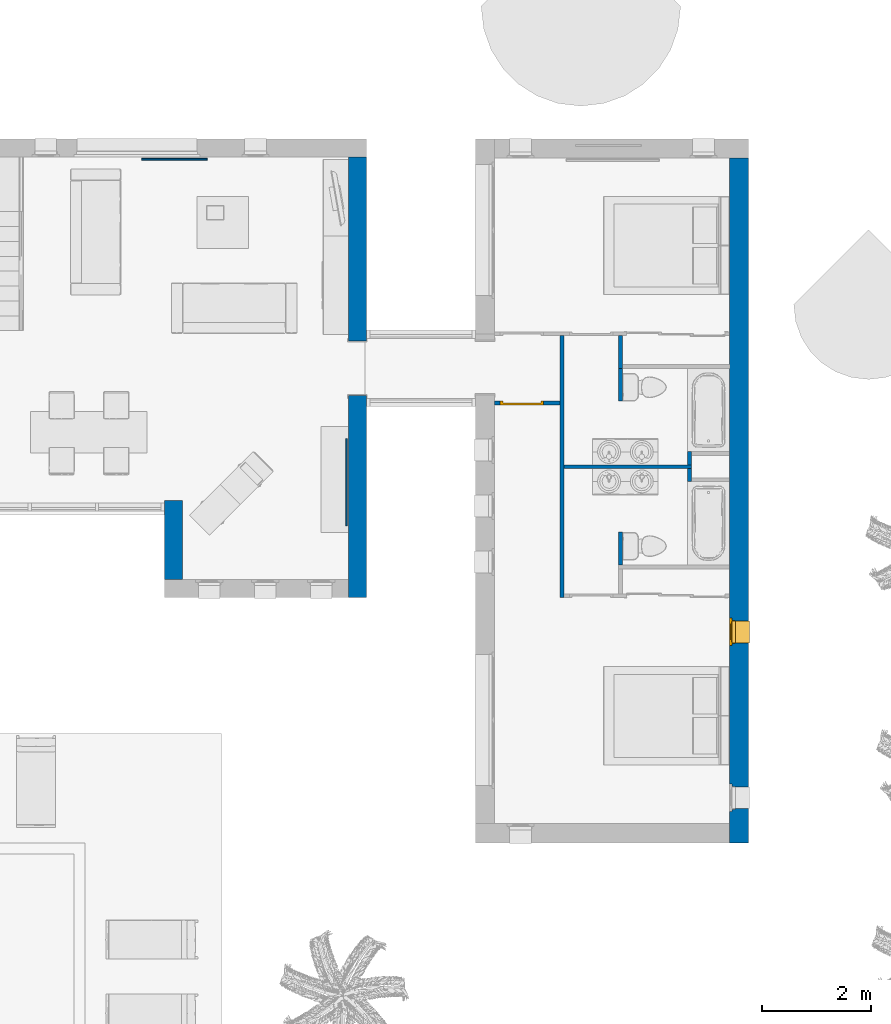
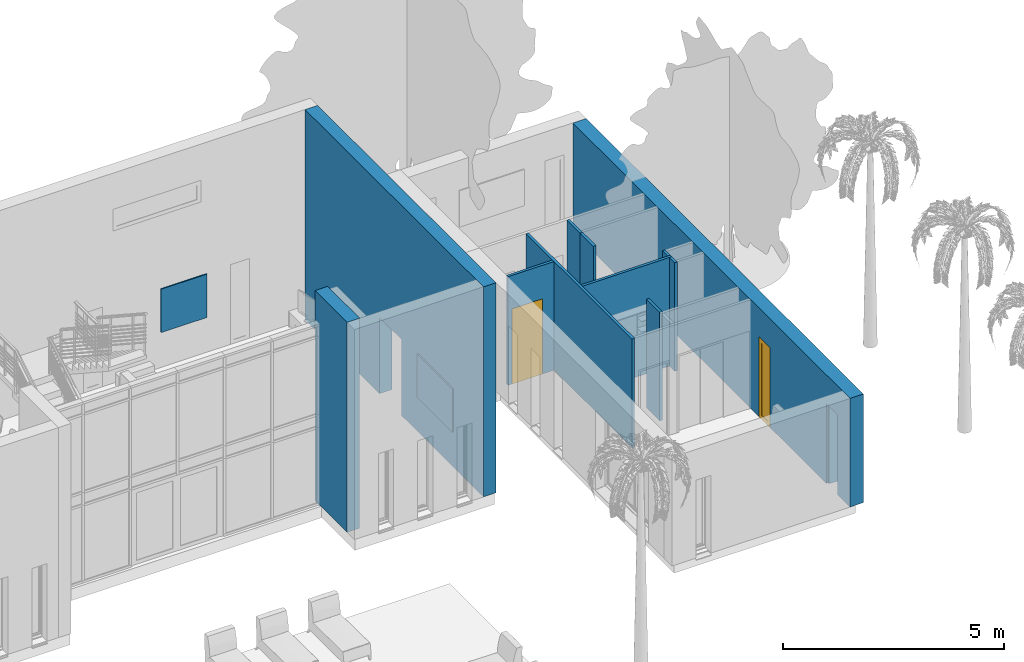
# One storey, part 12 of 40: 13 walls, 1 door, 1 window, 4 openings.
"""IFC2X3 building model written with IfcOpenShell, lengths in metres."""

import ifcopenshell
import ifcopenshell.guid

model = None  # the IFC model being written
_history = None  # IfcOwnerHistory: only IFC2X3 demands one
_inside = {}  # id of a spatial element -> (the spatial element, [elements in it])
_under = {}  # id of a project, library or spatial element -> (it, [spatial elements below it])
_declared = {}  # id of a project -> (the project, [libraries it declares])
_typed = {}  # id of a type object -> (the type object, [elements of that type])
_made_of = {}  # id of a material, layer set ... -> (it, [elements and type objects made of it])


def new_model(schema):
    """Start an empty IFC model of exactly this schema.

    Asked for "IFC4X3", IfcOpenShell would pick the latest addendum, in which some entities
    have other attributes; the version numbers below select the first issue.
    IFC2X3 requires an IfcOwnerHistory on every rooted entity: one is made here for all.
    """
    global model, _history
    if schema == "IFC4X3":
        model = ifcopenshell.file(schema_version=(4, 3, 0, 0))
    else:
        model = ifcopenshell.file(schema=schema)
    _inside.clear()
    _under.clear()
    _declared.clear()
    _typed.clear()
    _made_of.clear()
    _history = None
    if model.schema == "IFC2X3":
        org = make("IfcOrganization", Name="unknown")
        user = make(
            "IfcPersonAndOrganization",
            ThePerson=make("IfcPerson", FamilyName="unknown"),
            TheOrganization=org,
        )
        app = make(
            "IfcApplication",
            ApplicationDeveloper=org,
            Version="unknown",
            ApplicationFullName="unknown",
            ApplicationIdentifier="unknown",
        )
        _history = make(
            "IfcOwnerHistory",
            OwningUser=user,
            OwningApplication=app,
            ChangeAction="ADDED",
            CreationDate=0,
        )
    return model


def make(cls, **values):
    """One entity of the class cls with the attributes given. An attribute that is None is left unset."""
    return model.create_entity(
        cls, **{name: value for name, value in values.items() if value is not None}
    )


def entity(cls, *values):
    """Any entity or typed value of the class cls, its attributes in the order of the schema. None: left unset."""
    e = model.create_entity(cls)
    for i, value in enumerate(values):
        if value is not None:
            e[i] = value
    return e


def rooted(cls, **values):
    """An entity with a GlobalId (a new one), such as an element, a storey or a relation."""
    return make(cls, GlobalId=ifcopenshell.guid.new(), OwnerHistory=_history, **values)


def si_unit(unit_type, name, prefix=None):
    """IfcSIUnit, for example si_unit("LENGTHUNIT", "METRE", prefix="MILLI")."""
    return make("IfcSIUnit", UnitType=unit_type, Prefix=prefix, Name=name)


def converted_unit(unit_type, name, factor, base, dimensions=None, offset=None):
    """IfcConversionBasedUnit, such as the inch: factor (a typed value) times the base unit."""
    return make(
        "IfcConversionBasedUnit"
        if offset is None
        else "IfcConversionBasedUnitWithOffset",
        ConversionOffset=offset,
        Dimensions=None
        if dimensions is None
        else entity("IfcDimensionalExponents", *dimensions),
        UnitType=unit_type,
        Name=name,
        ConversionFactor=make(
            "IfcMeasureWithUnit", ValueComponent=factor, UnitComponent=base
        ),
    )


def derived_unit(unit_type, elements):
    """IfcDerivedUnit: a product of units, each with its exponent."""
    return make(
        "IfcDerivedUnit",
        Elements=[
            make("IfcDerivedUnitElement", Unit=unit, Exponent=power)
            for unit, power in elements
        ],
        UnitType=unit_type,
    )


def assignment(units):
    """IfcUnitAssignment: the units of a project."""
    return None if units is None else make("IfcUnitAssignment", Units=units)


def point(xyz):
    """IfcCartesianPoint."""
    return None if xyz is None else make("IfcCartesianPoint", Coordinates=xyz)


def direction(xyz):
    """IfcDirection."""
    return None if xyz is None else make("IfcDirection", DirectionRatios=xyz)


def frame(location, z_axis=None, x_axis=None):
    """IfcAxis2Placement3D, a coordinate frame: its origin and axes. An axis left out is left unset."""
    return make(
        "IfcAxis2Placement3D",
        Location=point(location),
        Axis=direction(z_axis),
        RefDirection=direction(x_axis),
    )


def frame_2d(location, x_axis=None):
    """IfcAxis2Placement2D, a coordinate frame in the plane: its origin and x axis."""
    return make(
        "IfcAxis2Placement2D", Location=point(location), RefDirection=direction(x_axis)
    )


def origin():
    """The frame at (0, 0, 0) with its axes left unset."""
    return frame((0.0, 0.0, 0.0))


def place(relative_to, where):
    """IfcLocalPlacement: puts the frame where relative to a parent placement (None: the world)."""
    return make(
        "IfcLocalPlacement", PlacementRelTo=relative_to, RelativePlacement=where
    )


def context(
    kind, dimensions, precision=None, world=None, true_north=None, identifier=None
):
    """IfcGeometricRepresentationContext, for example the 3D "Model" context."""
    return make(
        "IfcGeometricRepresentationContext",
        ContextIdentifier=identifier,
        ContextType=kind,
        CoordinateSpaceDimension=dimensions,
        Precision=precision,
        WorldCoordinateSystem=world,
        TrueNorth=true_north,
    )


def subcontext(parent, identifier, kind, view, scale=None):
    """IfcGeometricRepresentationSubContext, for example "Body" below "Model"."""
    return make(
        "IfcGeometricRepresentationSubContext",
        ContextIdentifier=identifier,
        ContextType=kind,
        ParentContext=parent,
        TargetScale=scale,
        TargetView=view,
    )


def project(units=None, contexts=None):
    """IfcProject with its units and contexts."""
    return rooted(
        "IfcProject",
        Name="project",
        RepresentationContexts=contexts,
        UnitsInContext=assignment(units),
    )


def spatial(cls, under=None, at=None, **own):
    """A site, building, storey or space (cls), placed at a placement, below another one or the project."""
    s = rooted(cls, ObjectPlacement=at, **own)
    if under is not None:
        _under.setdefault(under.id(), (under, []))[1].append(s)
    return s


def profile(cls, at=None, kind="AREA", **sizes):
    """A parametric profile (cls). Its sizes go by their IFC names, for example OverallWidth=200.0."""
    return make(cls, ProfileType=kind, Position=at, **sizes)


def rectangle(**sizes):
    """IfcRectangleProfileDef."""
    return profile("IfcRectangleProfileDef", **sizes)


def extrude(swept, where, along, depth):
    """IfcExtrudedAreaSolid: the profile swept, set in the frame where, extruded along a direction by depth."""
    return make(
        "IfcExtrudedAreaSolid",
        SweptArea=swept,
        Position=where,
        ExtrudedDirection=direction(along),
        Depth=depth,
    )


def faces_of(points, faces, orient=None, outer=None):
    """IfcFace entities. A face is a list of loops; a loop is a list of indices into points, from 0.

    orient and outer hold one flag for each loop. By default every Orientation is true, the
    first loop of a face is its IfcFaceOuterBound and the others are IfcFaceBound.
    """
    made = []
    for i, loops in enumerate(faces):
        bounds = []
        for j, loop in enumerate(loops):
            is_outer = j == 0 if outer is None else outer[i][j]
            bounds.append(
                make(
                    "IfcFaceOuterBound" if is_outer else "IfcFaceBound",
                    Bound=make("IfcPolyLoop", Polygon=[points[k] for k in loop]),
                    Orientation=True if orient is None else orient[i][j],
                )
            )
        made.append(make("IfcFace", Bounds=bounds))
    return made


def faceted_brep(points, faces, orient=None, outer=None, voids=None):
    """IfcFacetedBrep: a solid bounded by flat faces; with voids (closed shells), ...WithVoids."""
    shared = [point(p) for p in points]
    hull = make("IfcClosedShell", CfsFaces=faces_of(shared, faces, orient, outer))
    if voids is None:
        return make("IfcFacetedBrep", Outer=hull)
    return make(
        "IfcFacetedBrepWithVoids",
        Outer=hull,
        Voids=[
            make(cls, CfsFaces=faces_of(shared, fs, o, b)) for cls, fs, o, b in voids
        ],
    )


def shape(context_of_items, identifier, shape_type, items):
    """IfcShapeRepresentation: the items that make up one representation, for example the "Body"."""
    return make(
        "IfcShapeRepresentation",
        ContextOfItems=context_of_items,
        RepresentationIdentifier=identifier,
        RepresentationType=shape_type,
        Items=items,
    )


def source(mapping_origin, context_of_items, identifier, shape_type, items):
    """IfcRepresentationMap: a shape defined once, which mapped items show again and again."""
    return make(
        "IfcRepresentationMap",
        MappingOrigin=mapping_origin,
        MappedRepresentation=shape(context_of_items, identifier, shape_type, items),
    )


def transform(
    local_origin,
    x_axis=None,
    y_axis=None,
    z_axis=None,
    scale=None,
    scale2=None,
    scale3=None,
    uniform=True,
):
    """IfcCartesianTransformationOperator3D, or its non-uniform kind. x_axis, y_axis, z_axis: its Axis1, 2, 3."""
    if uniform:
        return make(
            "IfcCartesianTransformationOperator3D",
            Axis1=direction(x_axis),
            Axis2=direction(y_axis),
            LocalOrigin=point(local_origin),
            Scale=scale,
            Axis3=direction(z_axis),
        )
    return make(
        "IfcCartesianTransformationOperator3DnonUniform",
        Axis1=direction(x_axis),
        Axis2=direction(y_axis),
        LocalOrigin=point(local_origin),
        Scale=scale,
        Axis3=direction(z_axis),
        Scale2=scale2,
        Scale3=scale3,
    )


def mapped(mapping_source, mapping_target):
    """IfcMappedItem: shows the shape of a source again, moved by a transform."""
    return make(
        "IfcMappedItem", MappingSource=mapping_source, MappingTarget=mapping_target
    )


def material(Name=None, Category=None):
    """IfcMaterial."""
    return make("IfcMaterial", Name=Name, Category=Category)


def material_list(materials):
    """IfcMaterialList."""
    return make("IfcMaterialList", Materials=materials)


def layer(
    of_material, thickness, ventilated=None, Name=None, Category=None, Priority=None
):
    """IfcMaterialLayer: one layer of a wall or slab, of a material (None: an air gap)."""
    return make(
        "IfcMaterialLayer",
        Material=of_material,
        LayerThickness=thickness,
        IsVentilated=ventilated,
        Name=Name,
        Category=Category,
        Priority=Priority,
    )


def layer_set(layers, Name=None):
    """IfcMaterialLayerSet."""
    return make("IfcMaterialLayerSet", MaterialLayers=layers, LayerSetName=Name)


def layer_usage(for_layer_set, set_direction, sense, offset, extent=None):
    """IfcMaterialLayerSetUsage: how a layer set lies in its element."""
    return make(
        "IfcMaterialLayerSetUsage",
        ForLayerSet=for_layer_set,
        LayerSetDirection=set_direction,
        DirectionSense=sense,
        OffsetFromReferenceLine=offset,
        ReferenceExtent=extent,
    )


def made_of(thing, what):
    """Note that an element or type object is made of a material, layer set ...; save() writes the relation."""
    if what is not None:
        _made_of.setdefault(what.id(), (what, []))[1].append(thing)
    return thing


def type_object(cls, material=None, **own):
    """A type object (cls), such as IfcWallType, which elements share."""
    return made_of(rooted(cls, **own), material)


def type_shapes(of_type, sources):
    """Give a type object the sources (RepresentationMaps) that its elements show as mapped items."""
    of_type.RepresentationMaps = sources


def element(
    cls,
    number,
    at=None,
    inside=None,
    cuts=None,
    type_object=None,
    material=None,
    context=None,
    identifier="Body",
    shape_type=None,
    held_by="IfcProductDefinitionShape",
    body=None,
    shapes=None,
    **own,
):
    """One element of the class cls, such as IfcWall. Its Tag is "e" and its number.

    at: its placement. inside: the storey or other place that contains it. cuts: it is an
    opening in that element (IfcRelVoidsElement). A single representation is given by context,
    identifier, shape_type and body (its items); several are given by shapes. held_by: the class
    of the entity that holds the representations. save() writes the other relations.
    """
    e = rooted(cls, Tag="e%d" % number, ObjectPlacement=at, **own)
    if body is not None:
        shapes = [shape(context, identifier, shape_type, body)]
    if shapes is not None:
        e.Representation = make(held_by, Representations=shapes)
    if inside is not None:
        _inside.setdefault(inside.id(), (inside, []))[1].append(e)
    if cuts is not None:
        rooted(
            "IfcRelVoidsElement", RelatingBuildingElement=cuts, RelatedOpeningElement=e
        )
    if type_object is not None:
        _typed.setdefault(type_object.id(), (type_object, []))[1].append(e)
    return made_of(e, material)


def fill(opening, filler):
    """IfcRelFillsElement: the door or window that sits in an opening."""
    return rooted(
        "IfcRelFillsElement",
        RelatingOpeningElement=opening,
        RelatedBuildingElement=filler,
    )


def aggregate(whole, parts):
    """IfcRelAggregates: a whole, such as a stair, and the parts it consists of."""
    return rooted("IfcRelAggregates", RelatingObject=whole, RelatedObjects=parts)


def save(model, path):
    """Write the relations noted so far, then the file.

    IfcRelAggregates (storeys below a building ...), IfcRelContainedInSpatialStructure (elements
    in a storey), IfcRelDefinesByType, IfcRelAssociatesMaterial and IfcRelDeclares: one each for
    every whole, place, type object, material and project.
    """
    for whole, parts in _under.values():
        aggregate(whole, parts)
    for where, things in _inside.values():
        rooted(
            "IfcRelContainedInSpatialStructure",
            RelatedElements=things,
            RelatingStructure=where,
        )
    for kind, things in _typed.values():
        rooted("IfcRelDefinesByType", RelatedObjects=things, RelatingType=kind)
    for what, things in _made_of.values():
        rooted("IfcRelAssociatesMaterial", RelatedObjects=things, RelatingMaterial=what)
    for by, libraries in _declared.values():
        rooted("IfcRelDeclares", RelatingContext=by, RelatedDefinitions=libraries)
    model.write(path)


model = new_model("IFC2X3")

# Units and contexts
model_context = context("Model", 3, precision=1e-05, world=origin(), true_north=direction((6.12303176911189e-17, 1.0)))
body_context = subcontext(model_context, "Body", "Model", "MODEL_VIEW")
ifc_project = project(units=[si_unit("LENGTHUNIT", "METRE"), si_unit("AREAUNIT", "SQUARE_METRE"), si_unit("VOLUMEUNIT", "CUBIC_METRE"), converted_unit("PLANEANGLEUNIT", "DEGREE", entity("IfcRatioMeasure", 0.0174532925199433), si_unit("PLANEANGLEUNIT", "RADIAN"), dimensions=[0, 0, 0, 0, 0, 0, 0]), si_unit("MASSUNIT", "GRAM", prefix="KILO"), derived_unit("MASSDENSITYUNIT", [(si_unit("MASSUNIT", "GRAM", prefix="KILO"), 1), (si_unit("LENGTHUNIT", "METRE"), -3)]), si_unit("TIMEUNIT", "SECOND"), si_unit("FREQUENCYUNIT", "HERTZ"), si_unit("THERMODYNAMICTEMPERATUREUNIT", "DEGREE_CELSIUS"), derived_unit("THERMALTRANSMITTANCEUNIT", [(si_unit("MASSUNIT", "GRAM", prefix="KILO"), 1), (si_unit("THERMODYNAMICTEMPERATUREUNIT", "KELVIN"), -1), (si_unit("TIMEUNIT", "SECOND"), -3)]), derived_unit("VOLUMETRICFLOWRATEUNIT", [(si_unit("LENGTHUNIT", "METRE"), 3), (si_unit("TIMEUNIT", "SECOND"), -1)]), si_unit("ELECTRICCURRENTUNIT", "AMPERE"), si_unit("ELECTRICVOLTAGEUNIT", "VOLT"), si_unit("POWERUNIT", "WATT"), si_unit("FORCEUNIT", "NEWTON", prefix="KILO"), si_unit("ILLUMINANCEUNIT", "LUX"), si_unit("LUMINOUSFLUXUNIT", "LUMEN"), si_unit("LUMINOUSINTENSITYUNIT", "CANDELA"), derived_unit("USERDEFINED", [(si_unit("MASSUNIT", "GRAM", prefix="KILO"), -1), (si_unit("LENGTHUNIT", "METRE"), -2), (si_unit("TIMEUNIT", "SECOND"), 3), (si_unit("LUMINOUSFLUXUNIT", "LUMEN"), 1)]), derived_unit("LINEARVELOCITYUNIT", [(si_unit("LENGTHUNIT", "METRE"), 1), (si_unit("TIMEUNIT", "SECOND"), -1)]), si_unit("PRESSUREUNIT", "PASCAL"), derived_unit("USERDEFINED", [(si_unit("LENGTHUNIT", "METRE"), -2), (si_unit("MASSUNIT", "GRAM", prefix="KILO"), 1), (si_unit("TIMEUNIT", "SECOND"), -2)])], contexts=[model_context])

# Site, building, storey
site_placement = place(None, origin())
site = spatial("IfcSite", under=ifc_project, at=site_placement, Name="Surface", CompositionType="ELEMENT")
building_placement = place(site_placement, origin())
building = spatial("IfcBuilding", under=site, at=building_placement, CompositionType="ELEMENT")
storey_placement = place(building_placement, origin())
storey = spatial("IfcBuildingStorey", under=building, at=storey_placement, Name="RDC", CompositionType="ELEMENT", Elevation=-1.0941605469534e-13)

# Wall, opening
ifc_material_1 = material(Name="Maçonnerie - Enduit")
ifc_layer_1 = layer(ifc_material_1, 0.02)
ifc_material_2 = material(Name="Blocs béton manufacturés")
ifc_layer_2 = layer(ifc_material_2, 0.2)
ifc_material_3 = material(Name="vide")
ifc_layer_3 = layer(ifc_material_3, 0.01)
ifc_material_4 = material(Name="Maçonnerie - Isolant")
ifc_layer_4 = layer(ifc_material_4, 0.09)
ifc_material_5 = material(Name="Plâtre")
ifc_layer_5 = layer(ifc_material_5, 0.01)
ifc_layer_set_1 = layer_set([ifc_layer_1, ifc_layer_2, ifc_layer_3, ifc_layer_4, ifc_layer_5], Name="Mur de base:M7 Ext. Crépis 2 + BBMC 20 + Isolant 11")
ifc_layer_usage_1 = layer_usage(ifc_layer_set_1, "AXIS2", "NEGATIVE", 0.165)
wall_type_1 = type_object("IfcWallType", Name="Mur de base:M7 Ext. Crépis 2 + BBMC 20 + Isolant 11", PredefinedType="STANDARD", material=ifc_layer_set_1)
wall_1_placement = place(storey_placement, frame((9.63251111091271, 7.54701067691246, 0.0), z_axis=(0.0, 0.0, 1.0), x_axis=(0.0, -1.0, 0.0)))
wall_1 = element("IfcWallStandardCase", 1, at=wall_1_placement, inside=storey, type_object=wall_type_1, material=ifc_layer_usage_1, Name="Mur de base:M7 Ext. Crépis 2 + BBMC 20 + Isolant 11", ObjectType="Mur de base:M7 Ext. Crépis 2 + BBMC 20 + Isolant 11", context=body_context, shape_type="SweptSolid", body=[
    extrude(rectangle(XDim=8.07, YDim=0.330000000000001, at=frame_2d((4.035, -2.22044604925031e-16), x_axis=(-1.0, 0.0))), origin(), (0.0, 0.0, 1.0), 5.80000000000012),
])
opening_1_placement = place(wall_1_placement, frame((4.37, 0.164999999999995, 0.0)))
element("IfcOpeningElement", 2, at=opening_1_placement, cuts=wall_1, Name="Ouverture en rectangle:Ouverture en rectangle:1", ObjectType="Opening", context=body_context, shape_type="SweptSolid", body=[
    extrude(rectangle(XDim=2.09999999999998, YDim=1.0, at=frame_2d((1.04999999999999, 0.5), x_axis=(1.0, 0.0))), frame((0.0, 0.0, 0.0), z_axis=(0.0, -1.0, 0.0), x_axis=(0.0, 0.0, 1.0)), (0.0, 0.0, 1.0), 0.33),
])

# Wall
ifc_layer_usage_2 = layer_usage(ifc_layer_set_1, "AXIS2", "NEGATIVE", 0.165)
wall_2_placement = place(storey_placement, frame((6.2625111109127, -0.192989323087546, 0.0), z_axis=(0.0, 0.0, 1.0), x_axis=(0.0, 1.0, 0.0)))
element("IfcWallStandardCase", 3, at=wall_2_placement, inside=storey, type_object=wall_type_1, material=ifc_layer_usage_2, Name="Mur de base:M7 Ext. Crépis 2 + BBMC 20 + Isolant 11", ObjectType="Mur de base:M7 Ext. Crépis 2 + BBMC 20 + Isolant 11", context=body_context, shape_type="SweptSolid", body=[
    extrude(rectangle(XDim=1.44999999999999, YDim=0.330000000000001, at=frame_2d((0.724999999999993, 0.0), x_axis=(-1.0, 0.0))), origin(), (0.0, 0.0, 1.0), 5.80000000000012),
])

# Wall, openings, window
ifc_material_6 = material(Name="Bardage bois")
ifc_layer_6 = layer(ifc_material_6, 0.01)
ifc_layer_7 = layer(ifc_material_4, 0.12)
ifc_layer_8 = layer(ifc_material_2, 0.2)
ifc_material_7 = material(Name="Par défaut")
ifc_layer_9 = layer(ifc_material_7, 0.01)
ifc_layer_10 = layer(ifc_material_5, 0.01)
ifc_layer_set_2 = layer_set([ifc_layer_6, ifc_layer_7, ifc_layer_8, ifc_layer_9, ifc_layer_10], Name="Mur de base:M8 Ext. Bois 2 + Isolant 12 +  BBMC 20 + vide 1 + ba13")
ifc_layer_usage_3 = layer_usage(ifc_layer_set_2, "AXIS2", "NEGATIVE", 0.175)
wall_type_2 = type_object("IfcWallType", Name="Mur de base:M8 Ext. Bois 2 + Isolant 12 +  BBMC 20 + vide 1 + ba13", PredefinedType="STANDARD", material=ifc_layer_set_2)
wall_3_placement = place(storey_placement, frame((16.6225111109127, 7.52701067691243, 0.0), z_axis=(0.0, 0.0, 1.0), x_axis=(0.0, -1.0, 0.0)))
wall_3 = element("IfcWallStandardCase", 4, at=wall_3_placement, inside=storey, type_object=wall_type_2, material=ifc_layer_usage_3, Name="Mur de base:M8 Ext. Bois 2 + Isolant 12 +  BBMC 20 + vide 1 + ba13", ObjectType="Mur de base:M8 Ext. Bois 2 + Isolant 12 +  BBMC 20 + vide 1 + ba13", context=body_context, shape_type="SweptSolid", body=[
    extrude(rectangle(XDim=12.5399999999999, YDim=0.349999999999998, at=frame_2d((6.26999999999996, -2.91433543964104e-16), x_axis=(-1.0, 0.0))), origin(), (0.0, 0.0, 1.0), 2.99999999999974),
])
opening_2_placement = place(wall_3_placement, frame((11.9649999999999, -0.500000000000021, -0.0775370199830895), z_axis=(0.0, 0.0, 1.0), x_axis=(0.0, 1.0, 0.0)))
element("IfcOpeningElement", 5, at=opening_2_placement, cuts=wall_3, Name="Mur de base:M8 Ext. Bois 2 + Isolant 12 +  BBMC 20 + vide 1 + ba13", ObjectType="Opening", context=body_context, shape_type="Brep", body=[
    faceted_brep([(0.404999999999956, 0.0499999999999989, 0.077537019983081), (0.404999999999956, 0.0499999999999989, 0.062537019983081), (1.0, 0.0499999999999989, 0.0), (1.0, 0.0499999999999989, 2.22753701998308), (0.425000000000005, 0.0499999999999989, 2.22753701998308), (0.425000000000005, 0.0499999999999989, 0.0775370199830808), (0.0, 0.449999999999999, 0.077537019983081), (0.0, 0.449999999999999, 2.22753701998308), (0.325, 0.449999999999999, 2.22753701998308), (0.325, 0.449999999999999, 0.0775370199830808), (0.0, 0.0499999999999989, 0.077537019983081), (0.325000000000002, 0.499999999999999, 0.077537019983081), (0.375000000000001, 0.499999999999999, 0.077537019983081), (0.375000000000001, 0.459999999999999, 0.077537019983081), (0.425000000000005, 0.459999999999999, 0.077537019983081), (0.425000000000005, 0.449999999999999, 0.077537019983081), (0.404999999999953, 0.449999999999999, 0.0775370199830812), (0.425000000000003, 0.039999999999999, 0.077537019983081), (0.375000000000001, 0.039999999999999, 0.077537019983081), (0.375000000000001, 0.0, 0.077537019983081), (0.325000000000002, 0.0, 0.077537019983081), (0.325000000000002, 0.0499999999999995, 0.077537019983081), (0.0, 0.0499999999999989, 2.22753701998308), (0.325000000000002, 0.0499999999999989, 2.22753701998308), (1.0, 0.449999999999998, 0.0), (1.0, 0.449999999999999, 2.22753701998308), (0.404999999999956, 0.449999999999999, 0.062537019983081), (0.375000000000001, 0.0, 2.27753701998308), (0.325000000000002, 0.0, 2.27753701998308), (0.375000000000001, 0.039999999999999, 2.23753701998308), (0.375000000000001, 0.459999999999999, 2.23753701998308), (0.375000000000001, 0.499999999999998, 2.27753701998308), (0.425000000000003, 0.039999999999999, 2.23753701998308), (0.425000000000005, 0.449999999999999, 2.22753701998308), (0.425000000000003, 0.459999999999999, 2.23753701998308), (0.325000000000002, 0.499999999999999, 2.27753701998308)], [[[0, 1, 2, 3, 4, 5]], [[6, 7, 8, 9]], [[10, 6, 9, 11, 12, 13, 14, 15, 16, 0, 5, 17, 18, 19, 20, 21]], [[10, 22, 7, 6]], [[7, 22, 23, 8]], [[3, 2, 24, 25]], [[2, 1, 26, 24]], [[1, 0, 16, 26]], [[20, 19, 27, 28]], [[19, 18, 29, 30, 13, 12, 31, 27]], [[18, 17, 32, 29]], [[17, 5, 4, 33, 15, 14, 34, 32]], [[21, 20, 28, 35, 11, 9, 8, 23]], [[28, 27, 31, 35]], [[30, 29, 32, 34]], [[31, 12, 11, 35]], [[13, 30, 34, 14]], [[3, 25, 33, 4]], [[25, 24, 26, 16, 15, 33]], [[22, 10, 21, 23]]]),
])
opening_3_placement = place(wall_3_placement, frame((8.92499999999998, -0.500000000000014, -0.0775370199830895), z_axis=(0.0, 0.0, 1.0), x_axis=(0.0, 1.0, 0.0)))
opening_3 = element("IfcOpeningElement", 6, at=opening_3_placement, cuts=wall_3, Name="Mur de base:M8 Ext. Bois 2 + Isolant 12 +  BBMC 20 + vide 1 + ba13", ObjectType="Opening", context=body_context, shape_type="Brep", body=[
    faceted_brep([(0.404999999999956, 0.45, 0.077537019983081), (0.425000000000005, 0.45, 0.077537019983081), (0.425000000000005, 0.45, 2.22753701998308), (1.0, 0.449999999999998, 2.22753701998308), (1.0, 0.449999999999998, 0.0), (0.404999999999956, 0.45, 0.062537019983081), (0.0, 0.0500000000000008, 0.077537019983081), (0.325, 0.0499999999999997, 0.077537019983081), (0.325, 0.0499999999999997, 2.22753701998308), (0.0, 0.0500000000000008, 2.22753701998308), (0.0, 0.450000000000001, 0.077537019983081), (0.325000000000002, 0.45, 0.077537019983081), (0.325000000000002, 0.499999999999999, 0.077537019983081), (0.375000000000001, 0.499999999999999, 0.077537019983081), (0.375000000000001, 0.459999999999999, 0.077537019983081), (0.425000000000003, 0.459999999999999, 0.077537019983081), (0.404999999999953, 0.0499999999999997, 0.077537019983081), (0.425000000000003, 0.0499999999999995, 0.0775370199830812), (0.425000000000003, 0.0399999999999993, 0.077537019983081), (0.374999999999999, 0.0399999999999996, 0.077537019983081), (0.374999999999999, 0.0, 0.077537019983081), (0.325, 0.0, 0.077537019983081), (0.0, 0.450000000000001, 2.22753701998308), (0.425000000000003, 0.0499999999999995, 2.22753701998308), (1.0, 0.0499999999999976, 2.22753701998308), (1.0, 0.0499999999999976, 0.0), (0.404999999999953, 0.0499999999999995, 0.062537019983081), (0.325000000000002, 0.499999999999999, 2.27753701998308), (0.375000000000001, 0.499999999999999, 2.27753701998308), (0.375000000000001, 0.0, 2.27753701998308), (0.375000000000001, 0.0399999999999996, 2.23753701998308), (0.375000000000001, 0.459999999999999, 2.23753701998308), (0.425000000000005, 0.46, 2.23753701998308), (0.425000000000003, 0.0399999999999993, 2.23753701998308), (0.325000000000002, 0.45, 2.22753701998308), (0.325000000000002, 0.0, 2.27753701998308)], [[[0, 1, 2, 3, 4, 5]], [[6, 7, 8, 9]], [[10, 11, 12, 13, 14, 15, 1, 0, 16, 17, 18, 19, 20, 21, 7, 6]], [[10, 6, 9, 22]], [[3, 2, 23, 24]], [[3, 24, 25, 4]], [[4, 25, 26, 5]], [[5, 26, 16, 0]], [[12, 27, 28, 13]], [[13, 28, 29, 20, 19, 30, 31, 14]], [[14, 31, 32, 15]], [[15, 32, 33, 18, 17, 23, 2, 1]], [[11, 34, 8, 7, 21, 35, 27, 12]], [[27, 35, 29, 28]], [[30, 33, 32, 31]], [[29, 35, 21, 20]], [[19, 18, 33, 30]], [[9, 8, 34, 22]], [[24, 23, 17, 16, 26, 25]], [[22, 34, 11, 10]]]),
])
ifc_material_8 = material(Name="Fenêtre - Appui")
ifc_material_9 = material(Name="Fenêtre - Vitrage")
ifc_material_10 = material(Name="Fenêtre - Cadre")
ifc_material_list_1 = material_list([ifc_material_8, ifc_material_9, ifc_material_10])
ifc_material_list_2 = material_list([ifc_material_8, ifc_material_9, ifc_material_10])
window_style = type_object("IfcWindowStyle", Name="0.40m x2.15m", ConstructionType="NOTDEFINED", OperationType="SINGLE_PANEL", ParameterTakesPrecedence=False, Sizeable=False, material=ifc_material_list_2)
shared_shape_1 = source(origin(), body_context, "Body", "Brep", [
    faceted_brep([(0.45, -0.309999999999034, 0.0378375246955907), (0.45, -0.589999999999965, 0.0672667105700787), (0.45, -0.589999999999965, 0.0775370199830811), (0.45, -0.594999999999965, 0.0775370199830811), (0.45, -0.594999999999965, 0.0625370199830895), (0.45, -0.314999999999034, 0.0331078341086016), (0.45, -0.314999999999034, 0.0228073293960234), (0.45, -0.309999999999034, 0.022281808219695), (0.0499999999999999, -0.309999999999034, 0.0378375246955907), (0.0499999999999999, -0.309999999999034, 0.022281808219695), (0.0499999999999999, -0.314999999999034, 0.0228073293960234), (0.0499999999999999, -0.314999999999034, 0.0331078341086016), (0.0499999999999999, -0.594999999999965, 0.0625370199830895), (0.0499999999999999, -0.594999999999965, 0.0775370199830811), (0.0499999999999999, -0.589999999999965, 0.0775370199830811), (0.0499999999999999, -0.589999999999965, 0.0672667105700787)], [[[0, 1, 2, 3, 4, 5, 6, 7]], [[8, 9, 10, 11, 12, 13, 14, 15]], [[1, 0, 8, 15]], [[2, 1, 15, 14]], [[3, 2, 14, 13]], [[4, 3, 13, 12]], [[5, 4, 12, 11]], [[6, 5, 11, 10]], [[7, 6, 10, 9]], [[0, 7, 9, 8]]]),
    faceted_brep([(0.0500000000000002, -0.309999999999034, 0.0392634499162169), (0.0500000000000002, -0.309999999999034, 0.0378375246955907), (0.0499999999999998, -0.589999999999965, 0.0672667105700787), (0.0499999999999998, -0.589999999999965, 0.0722942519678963), (0.0500000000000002, -0.313581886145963, 0.04324153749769), (0.0500000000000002, -0.311027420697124, 0.0419399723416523), (0.0549999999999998, -0.589999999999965, 0.0722942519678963), (0.0549999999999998, -0.589999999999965, 0.0672667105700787), (0.0550000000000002, -0.309999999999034, 0.0378375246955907), (0.0550000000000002, -0.309999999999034, 0.0392634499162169), (0.0550000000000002, -0.311027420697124, 0.0419399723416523), (0.0550000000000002, -0.313581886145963, 0.04324153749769)], [[[0, 1, 2, 3, 4, 5]], [[6, 7, 8, 9, 10, 11]], [[2, 1, 8, 7]], [[3, 2, 7, 6]], [[4, 3, 6, 11]], [[4, 11, 10, 5]], [[10, 9, 0, 5]], [[1, 0, 9, 8]]]),
    faceted_brep([(0.445, -0.309999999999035, 0.0392634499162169), (0.445, -0.309999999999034, 0.0378375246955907), (0.445, -0.589999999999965, 0.0672667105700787), (0.445, -0.589999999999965, 0.0722942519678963), (0.445, -0.313581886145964, 0.04324153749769), (0.445, -0.311027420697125, 0.0419399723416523), (0.45, -0.589999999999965, 0.0722942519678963), (0.45, -0.589999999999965, 0.0672667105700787), (0.45, -0.309999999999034, 0.0378375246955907), (0.45, -0.309999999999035, 0.0392634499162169), (0.45, -0.311027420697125, 0.0419399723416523), (0.45, -0.313581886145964, 0.04324153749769)], [[[0, 1, 2, 3, 4, 5]], [[6, 7, 8, 9, 10, 11]], [[2, 1, 8, 7]], [[3, 2, 7, 6]], [[4, 3, 6, 11]], [[4, 11, 10, 5]], [[10, 9, 0, 5]], [[1, 0, 9, 8]]]),
    faceted_brep([(0.0999999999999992, -0.649000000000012, 0.17753701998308), (0.0999999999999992, -0.649000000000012, 2.17753701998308), (0.4, -0.649000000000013, 2.17753701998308), (0.4, -0.649000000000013, 0.17753701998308), (0.0999999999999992, -0.661000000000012, 0.17753701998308), (0.0999999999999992, -0.661000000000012, 2.17753701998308), (0.4, -0.661000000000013, 2.17753701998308), (0.4, -0.661000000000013, 0.17753701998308)], [[[0, 1, 2, 3]], [[1, 0, 4, 5]], [[3, 2, 6, 7]], [[0, 3, 7, 4]], [[4, 7, 6, 5]], [[2, 1, 5, 6]]]),
    faceted_brep([(0.0999999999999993, -0.635000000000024, 2.17753701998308), (0.0999999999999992, -0.675000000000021, 2.17753701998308), (0.0999999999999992, -0.675000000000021, 0.177537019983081), (0.0999999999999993, -0.635000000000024, 0.17753701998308), (0.4, -0.675000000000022, 0.17753701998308), (0.4, -0.635000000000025, 0.17753701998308), (0.399999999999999, -0.675000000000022, 2.17753701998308), (0.449999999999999, -0.675000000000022, 0.127537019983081), (0.449999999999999, -0.675000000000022, 2.22753701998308), (0.0499999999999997, -0.675000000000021, 2.22753701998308), (0.0499999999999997, -0.675000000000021, 0.127537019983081), (0.4, -0.635000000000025, 2.17753701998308), (0.049999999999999, -0.635000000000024, 0.12753701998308), (0.0499999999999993, -0.635000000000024, 2.22753701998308), (0.45, -0.635000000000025, 2.22753701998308), (0.45, -0.635000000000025, 0.127537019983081)], [[[0, 1, 2, 3]], [[3, 2, 4, 5]], [[2, 1, 6, 4], [7, 8, 9, 10]], [[5, 4, 6, 11]], [[5, 11, 0, 3], [12, 13, 14, 15]], [[9, 13, 12, 10]], [[10, 12, 15, 7]], [[7, 15, 14, 8]], [[11, 6, 1, 0]], [[8, 14, 13, 9]]], outer=[[True], [True], [False, True], [True], [False, True], [True], [True], [True], [True], [True]]),
    faceted_brep([(0.0, -0.675, 0.0775370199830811), (0.0, -0.625000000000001, 0.0775370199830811), (0.0499999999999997, -0.625000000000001, 0.0775370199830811), (0.0499999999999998, -0.575000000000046, 0.0775370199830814), (0.45, -0.575000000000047, 0.0775370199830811), (0.45, -0.625000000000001, 0.0775370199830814), (0.499999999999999, -0.625000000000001, 0.0775370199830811), (0.499999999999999, -0.675, 0.0775370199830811), (0.0, -0.675, 2.27753701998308), (0.0, -0.625000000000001, 2.27753701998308), (0.499999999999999, -0.625000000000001, 2.27753701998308), (0.45, -0.625000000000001, 0.116913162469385), (0.0499999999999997, -0.625000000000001, 0.11691316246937), (0.0649999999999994, -0.625000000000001, 2.21253701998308), (0.0649999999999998, -0.625000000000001, 0.142537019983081), (0.435, -0.625000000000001, 0.142537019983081), (0.435, -0.625000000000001, 2.21253701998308), (0.0499999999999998, -0.565000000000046, 0.100836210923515), (0.0499999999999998, -0.565000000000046, 0.0725370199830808), (0.0499999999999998, -0.575000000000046, 0.0725370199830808), (0.45, -0.575000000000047, 0.0725370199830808), (0.45, -0.565000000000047, 0.0725370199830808), (0.45, -0.565000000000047, 0.100836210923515), (0.499999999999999, -0.675, 2.27753701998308), (0.45, -0.675, 2.22753701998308), (0.45, -0.675, 0.127537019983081), (0.0499999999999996, -0.675, 0.127537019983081), (0.0499999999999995, -0.675, 2.22753701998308), (0.0649999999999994, -0.635000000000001, 2.21253701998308), (0.0649999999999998, -0.635000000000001, 0.142537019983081), (0.435, -0.635000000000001, 0.142537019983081), (0.435, -0.635000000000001, 2.21253701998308), (0.45, -0.635000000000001, 2.22753701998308), (0.0499999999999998, -0.635000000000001, 2.22753701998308), (0.0499999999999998, -0.635000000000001, 0.127537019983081), (0.45, -0.635000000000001, 0.127537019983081)], [[[0, 1, 2, 3, 4, 5, 6, 7]], [[1, 0, 8, 9]], [[1, 9, 10, 6, 5, 11, 12, 2], [13, 14, 15, 16]], [[12, 17, 18, 19, 3, 2]], [[3, 19, 20, 4]], [[4, 20, 21, 22, 11, 5]], [[6, 10, 23, 7]], [[0, 7, 23, 8], [24, 25, 26, 27]], [[13, 28, 29, 14]], [[29, 30, 15, 14]], [[31, 16, 15, 30]], [[17, 12, 11, 22]], [[28, 31, 30, 29], [32, 33, 34, 35]], [[34, 33, 27, 26]], [[26, 25, 35, 34]], [[24, 32, 35, 25]], [[18, 17, 22, 21]], [[19, 18, 21, 20]], [[13, 16, 31, 28]], [[10, 9, 8, 23]], [[33, 32, 24, 27]]], outer=[[True], [True], [True, False], [True], [True], [True], [True], [True, False], [True], [True], [True], [True], [False, True], [True], [True], [True], [True], [True], [True], [True], [True]]),
    faceted_brep([(0.0499999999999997, -0.574999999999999, 0.0775370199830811), (0.0499999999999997, -0.625000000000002, 0.0775370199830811), (0.0399999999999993, -0.625000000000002, 0.0775370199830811), (0.0399999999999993, -0.574999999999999, 0.0775370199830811), (0.0499999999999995, -0.574999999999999, 2.22753701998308), (0.0499999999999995, -0.625000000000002, 2.22753701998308), (0.45, -0.625000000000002, 2.22753701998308), (0.45, -0.625000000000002, 0.0775370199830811), (0.46, -0.625000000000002, 0.0775370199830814), (0.46, -0.625000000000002, 2.23753701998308), (0.0399999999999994, -0.625000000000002, 2.23753701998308), (0.0399999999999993, -0.574999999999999, 2.23753701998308), (0.46, -0.574999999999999, 2.23753701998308), (0.46, -0.574999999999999, 0.0775370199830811), (0.45, -0.574999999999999, 0.0775370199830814), (0.45, -0.574999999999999, 2.22753701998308)], [[[0, 1, 2, 3]], [[1, 0, 4, 5]], [[2, 1, 5, 6, 7, 8, 9, 10]], [[3, 2, 10, 11]], [[0, 3, 11, 12, 13, 14, 15, 4]], [[6, 15, 14, 7]], [[14, 13, 8, 7]], [[12, 9, 8, 13]], [[5, 4, 15, 6]], [[11, 10, 9, 12]]]),
])
type_shapes(window_style, [shared_shape_1])
window_placement = place(opening_3_placement, frame((1.0, 0.499999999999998, 0.0), z_axis=(0.0, 0.0, 1.0), x_axis=(0.0, -1.0, 0.0)))
window = element("IfcWindow", 7, at=window_placement, inside=storey, type_object=window_style, material=ifc_material_list_1, Name="1 Vantail - Droit:0.40m x2.15m", ObjectType="0.40m x2.15m", OverallHeight=2.28, OverallWidth=0.5, context=body_context, shape_type="MappedRepresentation", body=[
    mapped(shared_shape_1, transform((0.0, 0.0, 0.0), scale=1.0)),
])
fill(opening_3, window)

# Wall, opening, door
ifc_material_11 = material(Name="Mur par défaut")
ifc_layer_11 = layer(ifc_material_11, 0.07)
ifc_layer_set_3 = layer_set([ifc_layer_11], Name="Mur de base:Générique - Int. 70 mm")
ifc_layer_usage_4 = layer_usage(ifc_layer_set_3, "AXIS2", "NEGATIVE", 0.035)
wall_type_3 = type_object("IfcWallType", Name="Mur de base:Générique - Int. 70 mm", PredefinedType="STANDARD", material=ifc_layer_set_3)
wall_4_placement = place(storey_placement, frame((12.1475111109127, 3.04201067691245, 0.0)))
wall_4 = element("IfcWallStandardCase", 8, at=wall_4_placement, inside=storey, type_object=wall_type_3, material=ifc_layer_usage_4, Name="Mur de base:Générique - Int. 70 mm", ObjectType="Mur de base:Générique - Int. 70 mm", context=body_context, shape_type="SweptSolid", body=[
    extrude(rectangle(XDim=1.2, YDim=0.0700000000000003, at=frame_2d((0.600000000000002, 9.36750677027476e-17), x_axis=(-1.0, 0.0))), origin(), (0.0, 0.0, 1.0), 2.99999999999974),
])
opening_4_placement = place(wall_4_placement, frame((0.899999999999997, 0.0349999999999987, 0.0)))
opening_4 = element("IfcOpeningElement", 9, at=opening_4_placement, cuts=wall_4, Name="Int. Simple:PP (0.73m x 2.04m):1", ObjectType="Opening", context=body_context, shape_type="SweptSolid", body=[
    extrude(rectangle(XDim=2.075, YDim=0.799999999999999, at=frame_2d((1.0375, 0.4), x_axis=(1.0, 0.0))), frame((0.0, 0.0, 0.0), z_axis=(0.0, -1.0, 0.0), x_axis=(0.0, 0.0, 1.0)), (0.0, 0.0, 1.0), 0.07),
])
ifc_material_12 = material(Name="Bois - Panneau de porte")
ifc_material_13 = material(Name="Bois - Cadre de porte")
ifc_material_list_3 = material_list([ifc_material_12, ifc_material_13])
ifc_material_list_4 = material_list([ifc_material_12, ifc_material_13])
door_style = type_object("IfcDoorStyle", Name="PP (0.73m x 2.04m)", ConstructionType="NOTDEFINED", OperationType="SINGLE_SWING_RIGHT", ParameterTakesPrecedence=False, Sizeable=False, material=ifc_material_list_4)
shared_shape_2 = source(origin(), body_context, "Body", "Brep", [
    faceted_brep([(0.835000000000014, 0.0400000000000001, 2.04), (0.835000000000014, 0.0400000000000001, 0.0), (0.105000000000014, 0.0400000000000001, 0.0), (0.105000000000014, 0.0400000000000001, 2.04), (0.835000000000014, 0.0, 2.04), (0.105000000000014, 0.0, 2.04), (0.105000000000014, 0.0, 0.0), (0.835000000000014, 0.0, 0.0)], [[[0, 1, 2, 3]], [[4, 5, 6, 7]], [[3, 5, 4, 0]], [[2, 6, 5, 3]], [[1, 7, 6, 2]], [[0, 4, 7, 1]]]),
    faceted_brep([(0.870000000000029, 0.0, 0.0), (0.835000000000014, 0.0, 0.0), (0.835000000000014, 0.04, 0.0), (0.820000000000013, 0.04, 0.0), (0.820000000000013, 0.0699999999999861, 0.0), (0.870000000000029, 0.0699999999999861, 0.0), (0.870000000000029, 0.0699999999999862, 2.07500000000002), (0.870000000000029, 0.0, 2.07500000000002), (0.820000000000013, 0.0699999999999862, 2.025), (0.120000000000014, 0.0699999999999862, 2.025), (0.120000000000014, 0.0699999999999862, 0.0), (0.0699999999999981, 0.0699999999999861, 0.0), (0.0699999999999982, 0.0699999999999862, 2.07500000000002), (0.820000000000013, 0.04, 2.025), (0.835000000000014, 0.04, 2.04), (0.105000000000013, 0.04, 2.04), (0.105000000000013, 0.04, 0.0), (0.120000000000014, 0.04, 0.0), (0.120000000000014, 0.04, 2.025), (0.835000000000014, 0.0, 2.04), (0.0699999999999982, 0.0, 2.07500000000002), (0.0699999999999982, 0.0, 0.0), (0.105000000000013, 0.0, 0.0), (0.105000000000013, 0.0, 2.04)], [[[0, 1, 2, 3, 4, 5]], [[5, 6, 7, 0]], [[4, 8, 9, 10, 11, 12, 6, 5]], [[3, 13, 8, 4]], [[2, 14, 15, 16, 17, 18, 13, 3]], [[1, 19, 14, 2]], [[0, 7, 20, 21, 22, 23, 19, 1]], [[12, 11, 21, 20]], [[21, 11, 10, 17, 16, 22]], [[18, 17, 10, 9]], [[23, 22, 16, 15]], [[6, 12, 20, 7]], [[13, 18, 9, 8]], [[19, 23, 15, 14]]]),
])
type_shapes(door_style, [shared_shape_2])
door_placement = place(opening_4_placement, frame((-0.870000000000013, -0.069999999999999, 0.0)))
door = element("IfcDoor", 10, at=door_placement, inside=storey, type_object=door_style, material=ifc_material_list_3, Name="Int. Simple:PP (0.73m x 2.04m)", ObjectType="PP (0.73m x 2.04m)", OverallHeight=2.075, OverallWidth=0.8, context=body_context, shape_type="MappedRepresentation", body=[
    mapped(shared_shape_2, transform((0.0, 0.0, 0.0), scale=1.0)),
])
fill(opening_4, door)

# Walls
ifc_layer_usage_5 = layer_usage(ifc_layer_set_3, "AXIS2", "POSITIVE", -0.035)
wall_5_placement = place(storey_placement, frame((13.3825111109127, 4.27701067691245, 0.0), z_axis=(0.0, 0.0, 1.0), x_axis=(0.0, -1.0, 0.0)))
element("IfcWallStandardCase", 11, at=wall_5_placement, inside=storey, type_object=wall_type_3, material=ifc_layer_usage_5, Name="Mur de base:Générique - Int. 70 mm", ObjectType="Mur de base:Générique - Int. 70 mm", context=body_context, shape_type="SweptSolid", body=[
    extrude(rectangle(XDim=4.79999999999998, YDim=0.0700000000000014, at=frame_2d((2.39999999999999, 5.65519853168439e-16), x_axis=(-1.0, 0.0))), origin(), (0.0, 0.0, 1.0), 2.99999999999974),
])
ifc_layer_usage_6 = layer_usage(ifc_layer_set_3, "AXIS2", "POSITIVE", -0.035)
wall_6_placement = place(storey_placement, frame((14.4525111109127, 4.27701067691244, 0.0), z_axis=(0.0, 0.0, 1.0), x_axis=(0.0, -1.0, 0.0)))
element("IfcWallStandardCase", 12, at=wall_6_placement, inside=storey, type_object=wall_type_3, material=ifc_layer_usage_6, Name="Mur de base:Générique - Int. 70 mm", ObjectType="Mur de base:Générique - Int. 70 mm", context=body_context, shape_type="SweptSolid", body=[
    extrude(rectangle(XDim=0.6, YDim=0.0700000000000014, at=frame_2d((0.3, -4.75314232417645e-16), x_axis=(-1.0, 0.0))), origin(), (0.0, 0.0, 1.0), 2.99999999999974),
])
ifc_layer_usage_7 = layer_usage(ifc_layer_set_3, "AXIS2", "NEGATIVE", 0.035)
wall_7_placement = place(storey_placement, frame((13.4175111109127, 1.87701067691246, 0.0)))
element("IfcWallStandardCase", 13, at=wall_7_placement, inside=storey, type_object=wall_type_3, material=ifc_layer_usage_7, Name="Mur de base:Générique - Int. 70 mm", ObjectType="Mur de base:Générique - Int. 70 mm", context=body_context, shape_type="SweptSolid", body=[
    extrude(rectangle(XDim=2.33799999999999, YDim=0.0699999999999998, at=frame_2d((1.169, -5.89805981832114e-17), x_axis=(-1.0, 0.0))), origin(), (0.0, 0.0, 1.0), 2.99999999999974),
])
ifc_layer_usage_8 = layer_usage(ifc_layer_set_3, "AXIS2", "POSITIVE", -0.035)
wall_8_placement = place(storey_placement, frame((15.7205111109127, 2.15201067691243, 0.0), z_axis=(0.0, 0.0, 1.0), x_axis=(0.0, -1.0, 0.0)))
element("IfcWallStandardCase", 14, at=wall_8_placement, inside=storey, type_object=wall_type_3, material=ifc_layer_usage_8, Name="Mur de base:Générique - Int. 70 mm", ObjectType="Mur de base:Générique - Int. 70 mm", context=body_context, shape_type="SweptSolid", body=[
    extrude(rectangle(XDim=0.239999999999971, YDim=0.0700000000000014, at=frame_2d((0.119999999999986, 0.0), x_axis=(-1.0, 0.0))), origin(), (0.0, 0.0, 1.0), 2.99999999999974),
])
ifc_layer_usage_9 = layer_usage(ifc_layer_set_3, "AXIS2", "POSITIVE", -0.035)
wall_9_placement = place(storey_placement, frame((15.7205111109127, 1.84201067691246, 0.0), z_axis=(0.0, 0.0, 1.0), x_axis=(0.0, -1.0, 0.0)))
element("IfcWallStandardCase", 15, at=wall_9_placement, inside=storey, type_object=wall_type_3, material=ifc_layer_usage_9, Name="Mur de base:Générique - Int. 70 mm", ObjectType="Mur de base:Générique - Int. 70 mm", context=body_context, shape_type="SweptSolid", body=[
    extrude(rectangle(XDim=0.23999999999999, YDim=0.0700000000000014, at=frame_2d((0.119999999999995, 0.0), x_axis=(-1.0, 0.0))), origin(), (0.0, 0.0, 1.0), 2.99999999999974),
])
ifc_layer_usage_10 = layer_usage(ifc_layer_set_3, "AXIS2", "POSITIVE", -0.035)
wall_10_placement = place(storey_placement, frame((14.4525111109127, 3.67701067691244, 0.0), z_axis=(0.0, 0.0, 1.0), x_axis=(0.0, -1.0, 0.0)))
element("IfcWallStandardCase", 16, at=wall_10_placement, inside=storey, type_object=wall_type_3, material=ifc_layer_usage_10, Name="Mur de base:Générique - Int. 70 mm", ObjectType="Mur de base:Générique - Int. 70 mm", context=body_context, shape_type="SweptSolid", body=[
    extrude(rectangle(XDim=0.600000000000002, YDim=0.0700000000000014, at=frame_2d((0.300000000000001, 0.0), x_axis=(-1.0, 0.0))), origin(), (0.0, 0.0, 1.0), 2.99999999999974),
])
ifc_layer_usage_11 = layer_usage(ifc_layer_set_3, "AXIS2", "NEGATIVE", 0.035)
wall_11_placement = place(storey_placement, frame((14.4525111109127, 0.0770106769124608, 0.0), z_axis=(0.0, 0.0, 1.0), x_axis=(0.0, 1.0, 0.0)))
element("IfcWallStandardCase", 17, at=wall_11_placement, inside=storey, type_object=wall_type_3, material=ifc_layer_usage_11, Name="Mur de base:Générique - Int. 70 mm", ObjectType="Mur de base:Générique - Int. 70 mm", context=body_context, shape_type="SweptSolid", body=[
    extrude(rectangle(XDim=0.600000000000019, YDim=0.0700000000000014, at=frame_2d((0.30000000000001, -2.8796409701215e-16), x_axis=(-1.0, 0.0))), origin(), (0.0, 0.0, 1.0), 2.99999999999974),
])
ifc_material_14 = material(Name="Tableau Mondrian")
ifc_layer_12 = layer(ifc_material_14, 0.03)
ifc_layer_set_4 = layer_set([ifc_layer_12], Name="Mur de base:Tableau Mondrian")
ifc_layer_usage_12 = layer_usage(ifc_layer_set_4, "AXIS2", "POSITIVE", -0.015)
wall_type_4 = type_object("IfcWallType", Name="Mur de base:Tableau Mondrian", PredefinedType="STANDARD", material=ifc_layer_set_4)
wall_12_placement = place(storey_placement, frame((9.4325111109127, 2.39201067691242, 1.0), z_axis=(0.0, 0.0, 1.0), x_axis=(0.0, -1.0, 0.0)))
element("IfcWallStandardCase", 18, at=wall_12_placement, inside=storey, type_object=wall_type_4, material=ifc_layer_usage_12, Name="Mur de base:Tableau Mondrian", ObjectType="Mur de base:Tableau Mondrian", context=body_context, shape_type="SweptSolid", body=[
    extrude(rectangle(XDim=1.6, YDim=0.0299999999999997, at=frame_2d((0.8, 0.0), x_axis=(-1.0, 0.0))), origin(), (0.0, 0.0, 1.0), 1.2),
])
ifc_material_15 = material(Name="Tableau visage")
ifc_layer_13 = layer(ifc_material_15, 0.03)
ifc_layer_set_5 = layer_set([ifc_layer_13], Name="Mur de base:Tableau visage")
ifc_layer_usage_13 = layer_usage(ifc_layer_set_5, "AXIS2", "POSITIVE", -0.015)
wall_type_5 = type_object("IfcWallType", Name="Mur de base:Tableau visage", PredefinedType="STANDARD", material=ifc_layer_set_5)
wall_13_placement = place(storey_placement, frame((5.68106213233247, 7.50730031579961, 1.0)))
element("IfcWallStandardCase", 19, at=wall_13_placement, inside=storey, type_object=wall_type_5, material=ifc_layer_usage_13, Name="Mur de base:Tableau visage", ObjectType="Mur de base:Tableau visage", context=body_context, shape_type="SweptSolid", body=[
    extrude(rectangle(XDim=1.2, YDim=0.0299999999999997, at=frame_2d((0.599999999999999, 5.03069808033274e-17), x_axis=(-1.0, 0.0))), origin(), (0.0, 0.0, 1.0), 1.2),
])

save(model, "model.ifc")
